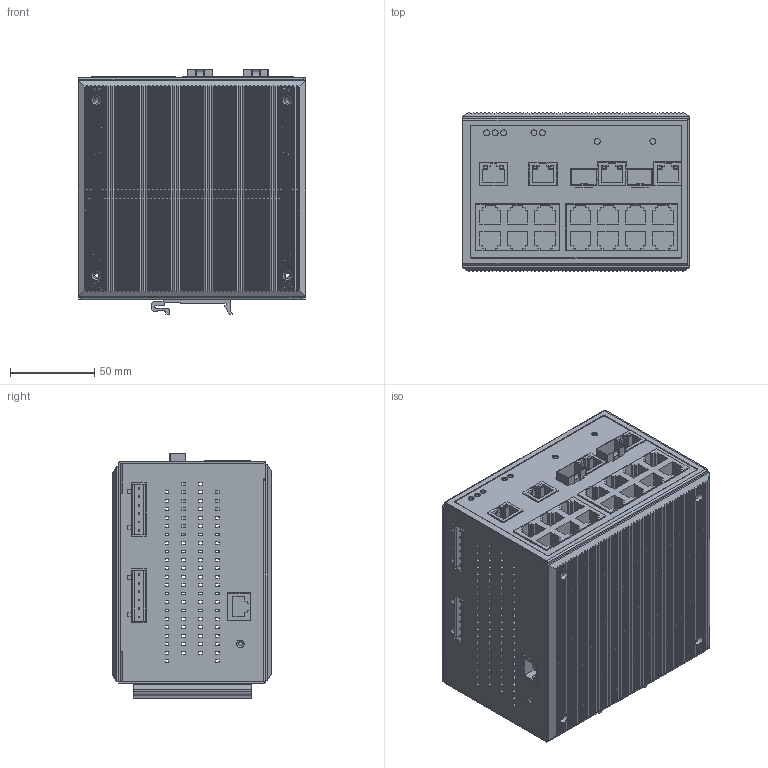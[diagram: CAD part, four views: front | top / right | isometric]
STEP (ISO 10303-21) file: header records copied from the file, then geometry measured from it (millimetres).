
FILE_DESCRIPTION((''),'2;1');
FILE_NAME('EDS-518A','2010-08-19T',('Chialu_Chang'),(''),'PRO/ENGINEER BY PARAMETRIC TECHNOLOGY CORPORATION, 2004440','PRO/ENGINEER BY PARAMETRIC TECHNOLOGY CORPORATION, 2004440','');
FILE_SCHEMA(('CONFIG_CONTROL_DESIGN'));
Products named in the file (1): EDS-518A
Bounding box: 135 x 94.03 x 144.97 mm (x, y, z)
Volume: 281861.5 mm3; surface area: 223058.9 mm2
Topology: 7 solids, 7 shells, 2921 faces, 8267 edges, 5424 vertices
Faces by surface type: plane 2147, cylinder 677, torus 62, cone 30, bspline 5
Entity records: 95025 total; most frequent: CARTESIAN_POINT 18629, ORIENTED_EDGE 16534, DIRECTION 14418, EDGE_CURVE 8267, VECTOR 6558, LINE 6558, VERTEX_POINT 5424, AXIS2_PLACEMENT_3D 3930
